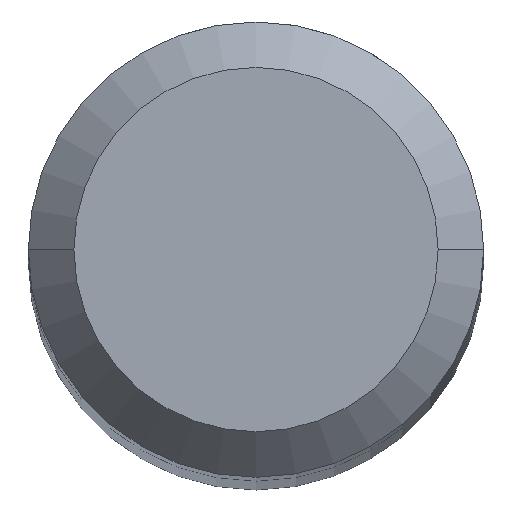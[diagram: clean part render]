
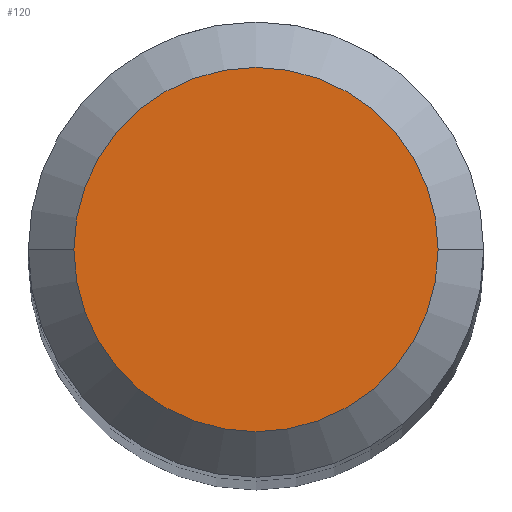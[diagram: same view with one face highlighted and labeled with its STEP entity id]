
A CAD part, top view. The second image highlights one B-rep face of the part: STEP entity #120.
In plain terms, the highlighted planar face has unit normal (0, 0, 1).
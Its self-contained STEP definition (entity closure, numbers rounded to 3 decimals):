
#2 = VERTEX_POINT ( 'NONE', #326 ) ;
#8 = DIRECTION ( 'NONE',  ( 1., 0., 0. ) ) ;
#10 = FACE_OUTER_BOUND ( 'NONE', #356, .T. ) ;
#29 = DIRECTION ( 'NONE',  ( 0., 0., -1. ) ) ;
#61 = CIRCLE ( 'NONE', #233, 6.4 ) ;
#65 = DIRECTION ( 'NONE',  ( -1., 0., 0. ) ) ;
#120 = ADVANCED_FACE ( 'NONE', ( #10 ), #122, .T. ) ;
#122 = PLANE ( 'NONE',  #138 ) ;
#131 = CARTESIAN_POINT ( 'NONE',  ( 0., 0., 0. ) ) ;
#138 = AXIS2_PLACEMENT_3D ( 'NONE', #412, #370, #8 ) ;
#178 = ORIENTED_EDGE ( 'NONE', *, *, #297, .F. ) ;
#233 = AXIS2_PLACEMENT_3D ( 'NONE', #320, #29, #65 ) ;
#244 = ORIENTED_EDGE ( 'NONE', *, *, #470, .F. ) ;
#245 = DIRECTION ( 'NONE',  ( -1., 0., 0. ) ) ;
#249 = VERTEX_POINT ( 'NONE', #311 ) ;
#297 = EDGE_CURVE ( 'NONE', #249, #2, #473, .T. ) ;
#311 = CARTESIAN_POINT ( 'NONE',  ( 6.4, 0., 0. ) ) ;
#320 = CARTESIAN_POINT ( 'NONE',  ( 0., 0., 0. ) ) ;
#326 = CARTESIAN_POINT ( 'NONE',  ( -6.4, 0., 0. ) ) ;
#356 = EDGE_LOOP ( 'NONE', ( #244, #178 ) ) ;
#370 = DIRECTION ( 'NONE',  ( 0., 0., 1. ) ) ;
#386 = DIRECTION ( 'NONE',  ( 0., 0., -1. ) ) ;
#388 = AXIS2_PLACEMENT_3D ( 'NONE', #131, #386, #245 ) ;
#412 = CARTESIAN_POINT ( 'NONE',  ( 0., 6.4, 0. ) ) ;
#470 = EDGE_CURVE ( 'NONE', #2, #249, #61, .T. ) ;
#473 = CIRCLE ( 'NONE', #388, 6.4 ) ;
